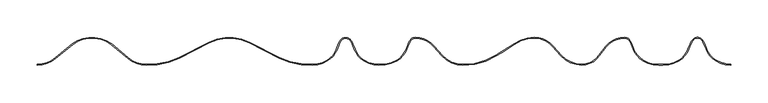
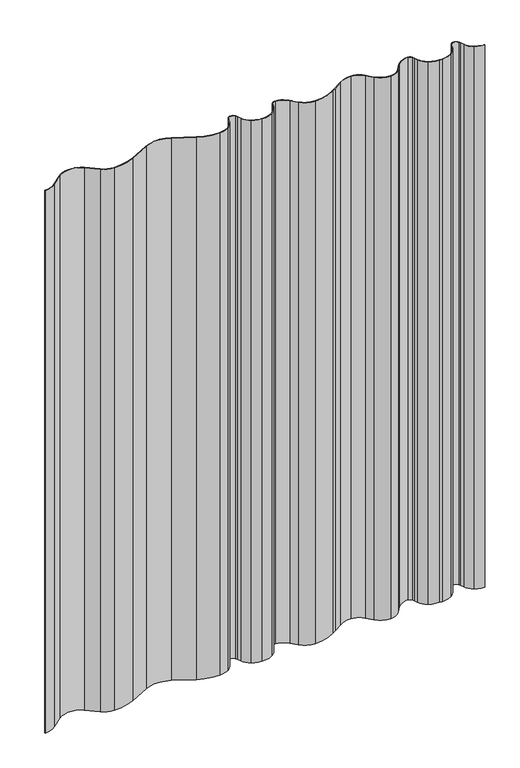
"""IFC4 building model written with IfcOpenShell, lengths in millimetres: plate geometry, Ritmica Vertical 928 : Ritmica Vertical 928."""

from ifc_helpers import new_model, si_unit, frame, origin, place, context, project, spatial, polyline, circle_curve, source, transform, mapped, element, save
from ifc_brep_helpers import plane_surface, cylinder_surface, revolved_surface, advanced_brep


def plate_bd2025f0(model_context):
    return source(origin(), model_context, "Body", "AdvancedBrep", [
        advanced_brep(
        [(444.4302446, 6.5092452, 1209.2760479), (431.9836286, 21.2620905, 1209.2760479), (429.1046615, 28.4575337, 1209.2760479), (427.4452979, 31.9226201, 1209.2760479), (411.4637013, 31.9284371, 1209.2760479), (409.8018157, 28.4645596, 1209.2760479), (406.9176114, 21.271214, 1209.2760479), (394.4602592, 6.5274333, 1209.2760479), (373.3665492, 0.7421636, 1209.2760479), (368.0278773, 0.7421636, 1209.2760479), (346.9383844, 6.5447303, 1209.2760479), (334.4917684, 21.2975755, 1209.2760479), (331.6128013, 28.4930188, 1209.2760479), (329.9534377, 31.9581052, 1209.2760479), (321.9644706, 36.992141, 1209.2760479), (296.9888452, 24.9656023, 1209.2760479), (287.4386892, 12.9828793, 1209.2760479), (264.9602063, 1.004862, 1209.2760479), (237.4962028, 13.0090371, 1209.2760479), (226.3924296, 24.9992776, 1209.2760479), (201.4255657, 37.0439944, 1209.2760479), (174.6923281, 28.6299834, 1209.2760479), (157.3593244, 17.4991286, 1209.2760479), (149.9257866, 13.1042873, 1209.2760479), (105.747615, 0.9217598, 1209.2760479), (78.2836116, 12.9259348, 1209.2760479), (67.1798385, 24.9161752, 1209.2760479), (42.2097646, 36.9608925, 1209.2760479), (34.2203451, 31.9326734, 1209.2760479), (32.5584593, 28.4687956, 1209.2760479), (29.674242, 21.2754179, 1209.2760479), (17.2169044, 6.5316705, 1209.2760479), (-6.5461114, 0.8337401, 1209.2760479), (-26.0848579, 6.3430017, 1209.2760479), (-38.5314739, 21.0958469, 1209.2760479), (-41.410441, 28.2912902, 1209.2760479), (-43.0698047, 31.7563766, 1209.2760479), (-59.0514012, 31.7621935, 1209.2760479), (-60.7132869, 28.298316, 1209.2760479), (-63.5974912, 21.1049705, 1209.2760479), (-76.0548434, 6.3611897, 1209.2760479), (-95.5975949, 0.8661531, 1209.2760479), (-139.3425473, 10.0476548, 1209.2760479), (-179.8736188, 30.4443215, 1209.2760479), (-233.7774888, 30.4639414, 1209.2760479), (-274.3233975, 10.0967851, 1209.2760479), (-318.0750221, 0.9471304, 1209.2760479), (-341.83917, 9.5589915, 1209.2760479), (-364.2633956, 28.2547827, 1209.2760479), (-417.1208498, 28.2740218, 1209.2760479), (-439.8609935, 9.5945594, 1209.2760479), (-463.6317682, 1.0000001, 1209.2760479), (-463.6317682, 0.0, 1209.2760479), (-439.2211878, 8.8260227, 1209.2760479), (-416.5014094, 27.488531, 1209.2760479), (-364.8834077, 27.4697431, 1209.2760479), (-342.479535, 8.7909208, 1209.2760479), (-318.0931528, -0.0528589, 1209.2760479), (-273.882295, 9.1992862, 1209.2760479), (-233.3286151, 29.5703462, 1209.2760479), (-180.3231429, 29.5510533, 1209.2760479), (-139.7843031, 9.1504773, 1209.2760479), (-95.5801931, -0.1338492, 1209.2760479), (-75.5333761, 5.5079185, 1209.2760479), (-62.6692321, 20.7330361, 1209.2760479), (-59.7974032, 27.8955168, 1209.2760479), (-58.1497994, 31.3296266, 1209.2760479), (-43.9717211, 31.324466, 1209.2760479), (-42.3266177, 27.8891578, 1209.2760479), (-39.4600035, 20.7245884, 1209.2760479), (-26.6069462, 5.4901103, 1209.2760479), (-6.5788504, -0.1662344, 1209.2760479), (17.7328786, 5.6750431, 1209.2760479), (30.6024869, 20.9034484, 1209.2760479), (33.4743429, 28.0659964, 1209.2760479), (35.1219469, 31.5001063, 1209.2760479), (42.2097628, 35.9608925, 1209.2760479), (66.4203948, 24.2645007, 1209.2760479), (77.5499027, 12.2464708, 1209.2760479), (105.7362544, -0.0782346, 1209.2760479), (150.4460781, 12.2501965, 1209.2760479), (157.8841427, 16.6477141, 1209.2760479), (175.2477974, 27.7982523, 1209.2760479), (201.4270073, 36.0439937, 1209.2760479), (225.6330756, 24.3475061, 1209.2760479), (236.7624939, 12.3295731, 1209.2760479), (264.9598423, 0.0048621, 1209.2760479), (288.2459339, 12.3912758, 1209.2760479), (297.7708595, 24.3423418, 1209.2760479), (321.9641067, 35.9921411, 1209.2760479), (329.0515212, 31.5261946, 1209.2760479), (330.6966247, 28.0908864, 1209.2760479), (333.5638307, 20.9248377, 1209.2760479), (346.4204051, 5.6893005, 1209.2760479), (368.0275134, -0.2558932, 1209.2760479), (373.3663683, -0.2578364, 1209.2760479), (394.9762369, 5.6708079, 1209.2760479), (407.8458704, 20.8992797, 1209.2760479), (410.7176994, 28.0617603, 1209.2760479), (412.3653031, 31.4958701, 1209.2760479), (426.5433815, 31.4907096, 1209.2760479), (428.1884849, 28.0554013, 1209.2760479), (431.0550991, 20.8908319, 1209.2760479), (443.9081563, 5.6563538, 1209.2760479), (463.9686268, -1.63e-05, 1209.2760479), (463.9686268, 0.9999838, 1209.2760479), (444.4302446, 6.5092452, 0.0), (463.9686268, 0.9999838, 0.0), (463.9686268, -1.63e-05, 0.0), (443.9081563, 5.6563538, 0.0), (431.0550991, 20.8908319, 0.0), (428.1884849, 28.0554013, 0.0), (426.5433815, 31.4907096, 0.0), (412.3653031, 31.4958701, 0.0), (410.7176994, 28.0617603, 0.0), (407.8458704, 20.8992797, 0.0), (394.9762369, 5.6708079, 0.0), (373.3663683, -0.2578364, 0.0), (368.0278773, -0.2578364, 0.0), (346.4204051, 5.6893005, 0.0), (333.5638307, 20.9248377, 0.0), (330.6966247, 28.0908864, 0.0), (329.0515212, 31.5261946, 0.0), (321.9641067, 35.9921411, 0.0), (297.7708595, 24.3423418, 0.0), (288.2459339, 12.3912758, 0.0), (264.9598423, 0.0048621, 0.0), (236.7624939, 12.3295731, 0.0), (225.6330756, 24.3475061, 0.0), (201.4270073, 36.0439937, 0.0), (175.2477974, 27.7982523, 0.0), (157.8841427, 16.6477141, 0.0), (150.4460781, 12.2501965, 0.0), (105.7362544, -0.0782346, 0.0), (77.5499027, 12.2464708, 0.0), (66.4203948, 24.2645007, 0.0), (42.2097628, 35.9608925, 0.0), (35.1219469, 31.5001063, 0.0), (33.4743429, 28.0659964, 0.0), (30.6024869, 20.9034484, 0.0), (17.7328786, 5.6750431, 0.0), (-6.5788504, -0.1662344, 0.0), (-26.6069462, 5.4901103, 0.0), (-39.4600035, 20.7245884, 0.0), (-42.3266177, 27.8891578, 0.0), (-43.9717211, 31.324466, 0.0), (-58.1497994, 31.3296266, 0.0), (-59.7974032, 27.8955168, 0.0), (-62.6692321, 20.7330361, 0.0), (-75.5333761, 5.5079185, 0.0), (-95.5801931, -0.1338492, 0.0), (-139.7843031, 9.1504773, 0.0), (-180.3231429, 29.5510533, 0.0), (-233.3286151, 29.5703462, 0.0), (-273.882295, 9.1992862, 0.0), (-318.0931528, -0.0528589, 0.0), (-342.479535, 8.7909208, 0.0), (-364.8834077, 27.4697431, 0.0), (-416.5014094, 27.488531, 0.0), (-439.2211878, 8.8260227, 0.0), (-463.6317682, 0.0, 0.0), (-463.6317682, 1.0000001, 0.0), (-439.8609935, 9.5945594, 0.0), (-417.1208498, 28.2740218, 0.0), (-364.2633956, 28.2547827, 0.0), (-341.83917, 9.5589915, 0.0), (-318.0750221, 0.9471304, 0.0), (-274.3233975, 10.0967851, 0.0), (-233.7774888, 30.4639414, 0.0), (-179.8736188, 30.4443215, 0.0), (-139.3425473, 10.0476548, 0.0), (-95.5975949, 0.8661531, 0.0), (-76.0548434, 6.3611897, 0.0), (-63.5974912, 21.1049705, 0.0), (-60.7132869, 28.298316, 0.0), (-59.0514012, 31.7621935, 0.0), (-43.0698047, 31.7563766, 0.0), (-41.410441, 28.2912902, 0.0), (-38.5314739, 21.0958469, 0.0), (-26.0848579, 6.3430017, 0.0), (-6.5461114, 0.8337401, 0.0), (17.2169044, 6.5316705, 0.0), (29.674242, 21.2754179, 0.0), (32.5584593, 28.4687956, 0.0), (34.2203451, 31.9326734, 0.0), (42.2097646, 36.9608925, 0.0), (67.1798385, 24.9161752, 0.0), (78.2836116, 12.9259348, 0.0), (105.747615, 0.9217598, 0.0), (149.9257866, 13.1042873, 0.0), (157.3593244, 17.4991286, 0.0), (174.6923281, 28.6299834, 0.0), (201.4255657, 37.0439944, 0.0), (226.3924296, 24.9992776, 0.0), (237.4962028, 13.0090371, 0.0), (264.9602063, 1.004862, 0.0), (287.4386892, 12.9828793, 0.0), (296.9888452, 24.9656023, 0.0), (321.9644706, 36.992141, 0.0), (329.9534377, 31.9581052, 0.0), (331.6128013, 28.4930188, 0.0), (334.4917684, 21.2975755, 0.0), (346.9383844, 6.5447303, 0.0), (368.0278773, 0.7441067, 0.0), (373.3665492, 0.7421636, 0.0), (394.4602592, 6.5274333, 0.0), (406.9176114, 21.271214, 0.0), (409.8018157, 28.4645596, 0.0), (411.4637013, 31.9284371, 0.0), (427.4452979, 31.9226201, 0.0), (429.1046615, 28.4575337, 0.0), (431.9836286, 21.2620905, 0.0)],
        [
            (0, 1, circle_curve(frame((460.4148551, 32.6219475, 1209.2760479), z_axis=(0.0, 0.0, -1.0), x_axis=(1.0, 0.0, 0.0)), 30.6166783)),
            (1, 2),
            (2, 3),
            (3, 4, circle_curve(frame((419.4531055, 28.095312, 1209.2760479), z_axis=(0.0, 0.0, 1.0), x_axis=(1.0, 0.0, 0.0)), 8.8613445)),
            (4, 5),
            (5, 6),
            (6, 7, circle_curve(frame((378.4946619, 32.6517648, 1209.2760479), z_axis=(0.0, 0.0, -1.0), x_axis=(1.0, 0.0, 0.0)), 30.6166783)),
            (7, 8, circle_curve(frame((373.381579, 42.0349557, 1209.2760479), z_axis=(0.0, 0.0, -1.0), x_axis=(1.0, 0.0, 0.0)), 41.2927949)),
            (8, 9),
            (9, 10, circle_curve(frame((368.0429071, 42.0368989, 1209.2760479), z_axis=(0.0, 0.0, -1.0), x_axis=(1.0, 0.0, 0.0)), 41.2927949)),
            (10, 11, circle_curve(frame((363.1637949, 32.8605896, 1209.2760479), z_axis=(0.0, 0.0, -1.0), x_axis=(1.0, 0.0, 0.0)), 30.9158276)),
            (11, 12),
            (12, 13),
            (13, 14, circle_curve(frame((321.9612453, 28.130797, 1209.2760479), z_axis=(0.0, 0.0, 1.0), x_axis=(1.0, 0.0, 0.0)), 8.8613445)),
            (14, 15, circle_curve(frame((321.9528514, 5.069444, 1209.2760479), z_axis=(0.0, 0.0, 1.0), x_axis=(1.0, 0.0, 0.0)), 31.9226992)),
            (15, 16),
            (16, 17, circle_curve(frame((264.9700565, 28.0674484, 1209.2760479), z_axis=(0.0, 0.0, -1.0), x_axis=(1.0, 0.0, 0.0)), 27.0625882)),
            (17, 18, circle_curve(frame((264.9738374, 38.455184, 1209.2760479), z_axis=(0.0, 0.0, -1.0), x_axis=(1.0, 0.0, 0.0)), 37.4503244)),
            (18, 19),
            (19, 20, circle_curve(frame((201.4139464, 5.1212973, 1209.2760479), z_axis=(0.0, 0.0, 1.0), x_axis=(1.0, 0.0, 0.0)), 31.9226992)),
            (20, 21, circle_curve(frame((201.5791622, -10.119828, 1209.2760479), z_axis=(0.0, 0.0, 1.0), x_axis=(1.0, 0.0, 0.0)), 47.1640725)),
            (21, 22),
            (22, 23),
            (23, 24, circle_curve(frame((107.5247522, 80.6713634, 1209.2760479), z_axis=(0.0, 0.0, -1.0), x_axis=(1.0, 0.0, 0.0)), 79.769402)),
            (24, 25, circle_curve(frame((105.7612462, 38.3720817, 1209.2760479), z_axis=(0.0, 0.0, -1.0), x_axis=(1.0, 0.0, 0.0)), 37.4503244)),
            (25, 26),
            (26, 27, circle_curve(frame((42.2097086, 5.0555108, 1209.2760479), z_axis=(0.0, 0.0, 1.0), x_axis=(1.0, 0.0, 0.0)), 31.9053816)),
            (27, 28, circle_curve(frame((42.209749, 28.099548, 1209.2760479), z_axis=(0.0, 0.0, 1.0), x_axis=(1.0, 0.0, 0.0)), 8.8613444)),
            (28, 29),
            (29, 30),
            (30, 31, circle_curve(frame((1.2513055, 32.656001, 1209.2760479), z_axis=(0.0, 0.0, -1.0), x_axis=(1.0, 0.0, 0.0)), 30.6166783)),
            (31, 32, circle_curve(frame((-3.8617775, 42.0391919, 1209.2760479), z_axis=(0.0, 0.0, -1.0), x_axis=(1.0, 0.0, 0.0)), 41.2927948)),
            (32, 33, circle_curve(frame((-6.5324806, 38.2840621, 1209.2760479), z_axis=(0.0, 0.0, -1.0), x_axis=(1.0, 0.0, 0.0)), 37.4503244)),
            (33, 34, circle_curve(frame((-10.1002475, 32.4557039, 1209.2760479), z_axis=(0.0, 0.0, -1.0), x_axis=(1.0, 0.0, 0.0)), 30.6166783)),
            (34, 35),
            (35, 36),
            (36, 37, circle_curve(frame((-51.0619971, 27.9290684, 1209.2760479), z_axis=(0.0, 0.0, 1.0), x_axis=(1.0, 0.0, 0.0)), 8.8613445)),
            (37, 38),
            (38, 39),
            (39, 40, circle_curve(frame((-92.0204406, 32.4855212, 1209.2760479), z_axis=(0.0, 0.0, -1.0), x_axis=(1.0, 0.0, 0.0)), 30.6166783)),
            (40, 41, circle_curve(frame((-95.5839638, 38.316475, 1209.2760479), z_axis=(0.0, 0.0, -1.0), x_axis=(1.0, 0.0, 0.0)), 37.4503244)),
            (41, 42, circle_curve(frame((-98.8645428, 94.1023106, 1209.2760479), z_axis=(0.0, 0.0, -1.0), x_axis=(1.0, 0.0, 0.0)), 93.293376)),
            (42, 43),
            (43, 44, circle_curve(frame((-206.8450653, -23.1517705, 1209.2760479), z_axis=(0.0, 0.0, 1.0), x_axis=(1.0, 0.0, 0.0)), 60.0)),
            (44, 45),
            (45, 46, circle_curve(frame((-314.7402029, 94.180885, 1209.2760479), z_axis=(0.0, 0.0, -1.0), x_axis=(1.0, 0.0, 0.0)), 93.293376)),
            (46, 47, circle_curve(frame((-318.061507, 38.0785482, 1209.2760479), z_axis=(0.0, 0.0, -1.0), x_axis=(1.0, 0.0, 0.0)), 37.1314203)),
            (47, 48),
            (48, 49, circle_curve(frame((-390.7049909, -7.0897704, 1209.2760479), z_axis=(0.0, 0.0, 1.0), x_axis=(1.0, 0.0, 0.0)), 44.1406321)),
            (49, 50),
            (50, 51, circle_curve(frame((-463.6178891, 38.1314178, 1209.2760479), z_axis=(0.0, 0.0, -1.0), x_axis=(1.0, 0.0, 0.0)), 37.1314203)),
            (51, 52),
            (52, 53, circle_curve(frame((-463.6178891, 38.1314178, 1209.2760479), z_axis=(0.0, 0.0, 1.0), x_axis=(1.0, 0.0, 0.0)), 38.1314203)),
            (53, 54),
            (54, 55, circle_curve(frame((-390.7049909, -7.0897704, 1209.2760479), z_axis=(0.0, 0.0, -1.0), x_axis=(1.0, 0.0, 0.0)), 43.1406321)),
            (55, 56),
            (56, 57, circle_curve(frame((-318.061507, 38.0785482, 1209.2760479), z_axis=(0.0, 0.0, 1.0), x_axis=(1.0, 0.0, 0.0)), 38.1314203)),
            (57, 58, circle_curve(frame((-314.7402029, 94.180885, 1209.2760479), z_axis=(0.0, 0.0, 1.0), x_axis=(1.0, 0.0, 0.0)), 94.293376)),
            (58, 59),
            (59, 60, circle_curve(frame((-206.8450653, -23.1517705, 1209.2760479), z_axis=(0.0, 0.0, -1.0), x_axis=(1.0, 0.0, 0.0)), 59.0)),
            (60, 61),
            (61, 62, circle_curve(frame((-98.8645428, 94.1023106, 1209.2760479), z_axis=(0.0, 0.0, 1.0), x_axis=(1.0, 0.0, 0.0)), 94.293376)),
            (62, 63, circle_curve(frame((-95.5839638, 38.316475, 1209.2760479), z_axis=(0.0, 0.0, 1.0), x_axis=(1.0, 0.0, 0.0)), 38.4503244)),
            (63, 64, circle_curve(frame((-92.0204406, 32.4855212, 1209.2760479), z_axis=(0.0, 0.0, 1.0), x_axis=(1.0, 0.0, 0.0)), 31.6166783)),
            (64, 65),
            (65, 66),
            (66, 67, circle_curve(frame((-51.0619971, 27.9290684, 1209.2760479), z_axis=(0.0, 0.0, -1.0), x_axis=(1.0, 0.0, 0.0)), 7.8613445)),
            (67, 68),
            (68, 69),
            (69, 70, circle_curve(frame((-10.1002475, 32.4557039, 1209.2760479), z_axis=(0.0, 0.0, 1.0), x_axis=(1.0, 0.0, 0.0)), 31.6166783)),
            (70, 71, circle_curve(frame((-6.5324806, 38.2840621, 1209.2760479), z_axis=(0.0, 0.0, 1.0), x_axis=(1.0, 0.0, 0.0)), 38.4503244)),
            (71, 72, circle_curve(frame((-3.8617775, 42.0391919, 1209.2760479), z_axis=(0.0, 0.0, 1.0), x_axis=(1.0, 0.0, 0.0)), 42.2927948)),
            (72, 73, circle_curve(frame((1.2513055, 32.656001, 1209.2760479), z_axis=(0.0, 0.0, 1.0), x_axis=(1.0, 0.0, 0.0)), 31.6166782)),
            (73, 74),
            (74, 75),
            (75, 76, circle_curve(frame((42.209749, 28.099548, 1209.2760479), z_axis=(0.0, 0.0, -1.0), x_axis=(1.0, 0.0, 0.0)), 7.8613444)),
            (76, 77, circle_curve(frame((42.2097086, 5.0555108, 1209.2760479), z_axis=(0.0, 0.0, -1.0), x_axis=(1.0, 0.0, 0.0)), 30.9053816)),
            (77, 78),
            (78, 79, circle_curve(frame((105.7612462, 38.3720817, 1209.2760479), z_axis=(0.0, 0.0, 1.0), x_axis=(1.0, 0.0, 0.0)), 38.4503244)),
            (79, 80, circle_curve(frame((107.5247522, 80.6713634, 1209.2760479), z_axis=(0.0, 0.0, 1.0), x_axis=(1.0, 0.0, 0.0)), 80.769402)),
            (80, 81),
            (81, 82),
            (82, 83, circle_curve(frame((201.5791622, -10.119828, 1209.2760479), z_axis=(0.0, 0.0, -1.0), x_axis=(1.0, 0.0, 0.0)), 46.1640725)),
            (83, 84, circle_curve(frame((201.4139464, 5.1212973, 1209.2760479), z_axis=(0.0, 0.0, -1.0), x_axis=(1.0, 0.0, 0.0)), 30.9226992)),
            (84, 85),
            (85, 86, circle_curve(frame((264.9738374, 38.455184, 1209.2760479), z_axis=(0.0, 0.0, 1.0), x_axis=(1.0, 0.0, 0.0)), 38.4503244)),
            (86, 87, circle_curve(frame((264.9700565, 28.0674484, 1209.2760479), z_axis=(0.0, 0.0, 1.0), x_axis=(1.0, 0.0, 0.0)), 28.0625882)),
            (87, 88),
            (88, 89, circle_curve(frame((321.9528514, 5.069444, 1209.2760479), z_axis=(0.0, 0.0, -1.0), x_axis=(1.0, 0.0, 0.0)), 30.9226992)),
            (89, 90, circle_curve(frame((321.9612453, 28.130797, 1209.2760479), z_axis=(0.0, 0.0, -1.0), x_axis=(1.0, 0.0, 0.0)), 7.8613445)),
            (90, 91),
            (91, 92),
            (92, 93, circle_curve(frame((363.1637949, 32.8605896, 1209.2760479), z_axis=(0.0, 0.0, 1.0), x_axis=(1.0, 0.0, 0.0)), 31.9158276)),
            (93, 94, circle_curve(frame((368.0429071, 42.0368989, 1209.2760479), z_axis=(0.0, 0.0, 1.0), x_axis=(1.0, 0.0, 0.0)), 42.2927949)),
            (94, 95),
            (95, 96, circle_curve(frame((373.381579, 42.0349557, 1209.2760479), z_axis=(0.0, 0.0, 1.0), x_axis=(1.0, 0.0, 0.0)), 42.2927949)),
            (96, 97, circle_curve(frame((378.4946619, 32.6517648, 1209.2760479), z_axis=(0.0, 0.0, 1.0), x_axis=(1.0, 0.0, 0.0)), 31.6166783)),
            (97, 98),
            (98, 99),
            (99, 100, circle_curve(frame((419.4531055, 28.095312, 1209.2760479), z_axis=(0.0, 0.0, -1.0), x_axis=(1.0, 0.0, 0.0)), 7.8613445)),
            (100, 101),
            (101, 102),
            (102, 103, circle_curve(frame((460.4148551, 32.6219475, 1209.2760479), z_axis=(0.0, 0.0, 1.0), x_axis=(1.0, 0.0, 0.0)), 31.6166783)),
            (103, 104, circle_curve(frame((463.982622, 38.4503056, 1209.2760479), z_axis=(0.0, 0.0, 1.0), x_axis=(1.0, 0.0, 0.0)), 38.4503244)),
            (104, 105),
            (105, 0, circle_curve(frame((463.982622, 38.4503056, 1209.2760479), z_axis=(0.0, 0.0, -1.0), x_axis=(1.0, 0.0, 0.0)), 37.4503244)),
            (106, 107, circle_curve(frame((463.982622, 38.4503056, 0.0), z_axis=(0.0, 0.0, 1.0), x_axis=(1.0, 0.0, 0.0)), 37.4503244)),
            (107, 108),
            (108, 109, circle_curve(frame((463.982622, 38.4503056, 0.0), z_axis=(0.0, 0.0, -1.0), x_axis=(1.0, 0.0, 0.0)), 38.4503244)),
            (109, 110, circle_curve(frame((460.4148551, 32.6219475, 0.0), z_axis=(0.0, 0.0, -1.0), x_axis=(1.0, 0.0, 0.0)), 31.6166783)),
            (110, 111),
            (111, 112),
            (112, 113, circle_curve(frame((419.4531055, 28.095312, 0.0), z_axis=(0.0, 0.0, 1.0), x_axis=(1.0, 0.0, 0.0)), 7.8613445)),
            (113, 114),
            (114, 115),
            (115, 116, circle_curve(frame((378.4946619, 32.6517648, 0.0), z_axis=(0.0, 0.0, -1.0), x_axis=(1.0, 0.0, 0.0)), 31.6166783)),
            (116, 117, circle_curve(frame((373.381579, 42.0349557, 0.0), z_axis=(0.0, 0.0, -1.0), x_axis=(1.0, 0.0, 0.0)), 42.2927949)),
            (117, 118),
            (118, 119, circle_curve(frame((368.0429071, 42.0368989, 0.0), z_axis=(0.0, 0.0, -1.0), x_axis=(1.0, 0.0, 0.0)), 42.2927949)),
            (119, 120, circle_curve(frame((363.1637949, 32.8605896, 0.0), z_axis=(0.0, 0.0, -1.0), x_axis=(1.0, 0.0, 0.0)), 31.9158276)),
            (120, 121),
            (121, 122),
            (122, 123, circle_curve(frame((321.9612453, 28.130797, 0.0), z_axis=(0.0, 0.0, 1.0), x_axis=(1.0, 0.0, 0.0)), 7.8613445)),
            (123, 124, circle_curve(frame((321.9528514, 5.069444, 0.0), z_axis=(0.0, 0.0, 1.0), x_axis=(1.0, 0.0, 0.0)), 30.9226992)),
            (124, 125),
            (125, 126, circle_curve(frame((264.9700565, 28.0674484, 0.0), z_axis=(0.0, 0.0, -1.0), x_axis=(1.0, 0.0, 0.0)), 28.0625882)),
            (126, 127, circle_curve(frame((264.9738374, 38.455184, 0.0), z_axis=(0.0, 0.0, -1.0), x_axis=(1.0, 0.0, 0.0)), 38.4503244)),
            (127, 128),
            (128, 129, circle_curve(frame((201.4139464, 5.1212973, 0.0), z_axis=(0.0, 0.0, 1.0), x_axis=(1.0, 0.0, 0.0)), 30.9226992)),
            (129, 130, circle_curve(frame((201.5791622, -10.119828, 0.0), z_axis=(0.0, 0.0, 1.0), x_axis=(1.0, 0.0, 0.0)), 46.1640725)),
            (130, 131),
            (131, 132),
            (132, 133, circle_curve(frame((107.5247522, 80.6713634, 0.0), z_axis=(0.0, 0.0, -1.0), x_axis=(1.0, 0.0, 0.0)), 80.769402)),
            (133, 134, circle_curve(frame((105.7612462, 38.3720817, 0.0), z_axis=(0.0, 0.0, -1.0), x_axis=(1.0, 0.0, 0.0)), 38.4503244)),
            (134, 135),
            (135, 136, circle_curve(frame((42.2097086, 5.0555108, 0.0), z_axis=(0.0, 0.0, 1.0), x_axis=(1.0, 0.0, 0.0)), 30.9053816)),
            (136, 137, circle_curve(frame((42.209749, 28.099548, 0.0), z_axis=(0.0, 0.0, 1.0), x_axis=(1.0, 0.0, 0.0)), 7.8613444)),
            (137, 138),
            (138, 139),
            (139, 140, circle_curve(frame((1.2513055, 32.656001, 0.0), z_axis=(0.0, 0.0, -1.0), x_axis=(1.0, 0.0, 0.0)), 31.6166782)),
            (140, 141, circle_curve(frame((-3.8617775, 42.0391919, 0.0), z_axis=(0.0, 0.0, -1.0), x_axis=(1.0, 0.0, 0.0)), 42.2927948)),
            (141, 142, circle_curve(frame((-6.5324806, 38.2840621, 0.0), z_axis=(0.0, 0.0, -1.0), x_axis=(1.0, 0.0, 0.0)), 38.4503244)),
            (142, 143, circle_curve(frame((-10.1002475, 32.4557039, 0.0), z_axis=(0.0, 0.0, -1.0), x_axis=(1.0, 0.0, 0.0)), 31.6166783)),
            (143, 144),
            (144, 145),
            (145, 146, circle_curve(frame((-51.0619971, 27.9290684, 0.0), z_axis=(0.0, 0.0, 1.0), x_axis=(1.0, 0.0, 0.0)), 7.8613445)),
            (146, 147),
            (147, 148),
            (148, 149, circle_curve(frame((-92.0204406, 32.4855212, 0.0), z_axis=(0.0, 0.0, -1.0), x_axis=(1.0, 0.0, 0.0)), 31.6166783)),
            (149, 150, circle_curve(frame((-95.5839638, 38.316475, 0.0), z_axis=(0.0, 0.0, -1.0), x_axis=(1.0, 0.0, 0.0)), 38.4503244)),
            (150, 151, circle_curve(frame((-98.8645428, 94.1023106, 0.0), z_axis=(0.0, 0.0, -1.0), x_axis=(1.0, 0.0, 0.0)), 94.293376)),
            (151, 152),
            (152, 153, circle_curve(frame((-206.8450653, -23.1517705, 0.0), z_axis=(0.0, 0.0, 1.0), x_axis=(1.0, 0.0, 0.0)), 59.0)),
            (153, 154),
            (154, 155, circle_curve(frame((-314.7402029, 94.180885, 0.0), z_axis=(0.0, 0.0, -1.0), x_axis=(1.0, 0.0, 0.0)), 94.293376)),
            (155, 156, circle_curve(frame((-318.061507, 38.0785482, 0.0), z_axis=(0.0, 0.0, -1.0), x_axis=(1.0, 0.0, 0.0)), 38.1314203)),
            (156, 157),
            (157, 158, circle_curve(frame((-390.7049909, -7.0897704, 0.0), z_axis=(0.0, 0.0, 1.0), x_axis=(1.0, 0.0, 0.0)), 43.1406321)),
            (158, 159),
            (159, 160, circle_curve(frame((-463.6178891, 38.1314178, 0.0), z_axis=(0.0, 0.0, -1.0), x_axis=(1.0, 0.0, 0.0)), 38.1314203)),
            (160, 161),
            (161, 162, circle_curve(frame((-463.6178891, 38.1314178, 0.0), z_axis=(0.0, 0.0, 1.0), x_axis=(1.0, 0.0, 0.0)), 37.1314203)),
            (162, 163),
            (163, 164, circle_curve(frame((-390.7049909, -7.0897704, 0.0), z_axis=(0.0, 0.0, -1.0), x_axis=(1.0, 0.0, 0.0)), 44.1406321)),
            (164, 165),
            (165, 166, circle_curve(frame((-318.061507, 38.0785482, 0.0), z_axis=(0.0, 0.0, 1.0), x_axis=(1.0, 0.0, 0.0)), 37.1314203)),
            (166, 167, circle_curve(frame((-314.7402029, 94.180885, 0.0), z_axis=(0.0, 0.0, 1.0), x_axis=(1.0, 0.0, 0.0)), 93.293376)),
            (167, 168),
            (168, 169, circle_curve(frame((-206.8450653, -23.1517705, 0.0), z_axis=(0.0, 0.0, -1.0), x_axis=(1.0, 0.0, 0.0)), 60.0)),
            (169, 170),
            (170, 171, circle_curve(frame((-98.8645428, 94.1023106, 0.0), z_axis=(0.0, 0.0, 1.0), x_axis=(1.0, 0.0, 0.0)), 93.293376)),
            (171, 172, circle_curve(frame((-95.5839638, 38.316475, 0.0), z_axis=(0.0, 0.0, 1.0), x_axis=(1.0, 0.0, 0.0)), 37.4503244)),
            (172, 173, circle_curve(frame((-92.0204406, 32.4855212, 0.0), z_axis=(0.0, 0.0, 1.0), x_axis=(1.0, 0.0, 0.0)), 30.6166783)),
            (173, 174),
            (174, 175),
            (175, 176, circle_curve(frame((-51.0619971, 27.9290684, 0.0), z_axis=(0.0, 0.0, -1.0), x_axis=(1.0, 0.0, 0.0)), 8.8613445)),
            (176, 177),
            (177, 178),
            (178, 179, circle_curve(frame((-10.1002475, 32.4557039, 0.0), z_axis=(0.0, 0.0, 1.0), x_axis=(1.0, 0.0, 0.0)), 30.6166783)),
            (179, 180, circle_curve(frame((-6.5324806, 38.2840621, 0.0), z_axis=(0.0, 0.0, 1.0), x_axis=(1.0, 0.0, 0.0)), 37.4503244)),
            (180, 181, circle_curve(frame((-3.8617775, 42.0391919, 0.0), z_axis=(0.0, 0.0, 1.0), x_axis=(1.0, 0.0, 0.0)), 41.2927948)),
            (181, 182, circle_curve(frame((1.2513055, 32.656001, 0.0), z_axis=(0.0, 0.0, 1.0), x_axis=(1.0, 0.0, 0.0)), 30.6166783)),
            (182, 183),
            (183, 184),
            (184, 185, circle_curve(frame((42.209749, 28.099548, 0.0), z_axis=(0.0, 0.0, -1.0), x_axis=(1.0, 0.0, 0.0)), 8.8613444)),
            (185, 186, circle_curve(frame((42.2097086, 5.0555108, 0.0), z_axis=(0.0, 0.0, -1.0), x_axis=(1.0, 0.0, 0.0)), 31.9053816)),
            (186, 187),
            (187, 188, circle_curve(frame((105.7612462, 38.3720817, 0.0), z_axis=(0.0, 0.0, 1.0), x_axis=(1.0, 0.0, 0.0)), 37.4503244)),
            (188, 189, circle_curve(frame((107.5247522, 80.6713634, 0.0), z_axis=(0.0, 0.0, 1.0), x_axis=(1.0, 0.0, 0.0)), 79.769402)),
            (189, 190),
            (190, 191),
            (191, 192, circle_curve(frame((201.5791622, -10.119828, 0.0), z_axis=(0.0, 0.0, -1.0), x_axis=(1.0, 0.0, 0.0)), 47.1640725)),
            (192, 193, circle_curve(frame((201.4139464, 5.1212973, 0.0), z_axis=(0.0, 0.0, -1.0), x_axis=(1.0, 0.0, 0.0)), 31.9226992)),
            (193, 194),
            (194, 195, circle_curve(frame((264.9738374, 38.455184, 0.0), z_axis=(0.0, 0.0, 1.0), x_axis=(1.0, 0.0, 0.0)), 37.4503244)),
            (195, 196, circle_curve(frame((264.9700565, 28.0674484, 0.0), z_axis=(0.0, 0.0, 1.0), x_axis=(1.0, 0.0, 0.0)), 27.0625882)),
            (196, 197),
            (197, 198, circle_curve(frame((321.9528514, 5.069444, 0.0), z_axis=(0.0, 0.0, -1.0), x_axis=(1.0, 0.0, 0.0)), 31.9226992)),
            (198, 199, circle_curve(frame((321.9612453, 28.130797, 0.0), z_axis=(0.0, 0.0, -1.0), x_axis=(1.0, 0.0, 0.0)), 8.8613445)),
            (199, 200),
            (200, 201),
            (201, 202, circle_curve(frame((363.1637949, 32.8605896, 0.0), z_axis=(0.0, 0.0, 1.0), x_axis=(1.0, 0.0, 0.0)), 30.9158276)),
            (202, 203, circle_curve(frame((368.0429071, 42.0368989, 0.0), z_axis=(0.0, 0.0, 1.0), x_axis=(1.0, 0.0, 0.0)), 41.2927949)),
            (203, 204),
            (204, 205, circle_curve(frame((373.381579, 42.0349557, 0.0), z_axis=(0.0, 0.0, 1.0), x_axis=(1.0, 0.0, 0.0)), 41.2927949)),
            (205, 206, circle_curve(frame((378.4946619, 32.6517648, 0.0), z_axis=(0.0, 0.0, 1.0), x_axis=(1.0, 0.0, 0.0)), 30.6166783)),
            (206, 207),
            (207, 208),
            (208, 209, circle_curve(frame((419.4531055, 28.095312, 0.0), z_axis=(0.0, 0.0, -1.0), x_axis=(1.0, 0.0, 0.0)), 8.8613445)),
            (209, 210),
            (210, 211),
            (211, 106, circle_curve(frame((460.4148551, 32.6219475, 0.0), z_axis=(0.0, 0.0, 1.0), x_axis=(1.0, 0.0, 0.0)), 30.6166783)),
            (0, 106),
            (211, 1),
            (210, 2),
            (209, 3),
            (208, 4),
            (207, 5),
            (206, 6),
            (205, 7),
            (204, 8),
            (203, 9),
            (202, 10),
            (201, 11),
            (200, 12),
            (199, 13),
            (198, 14),
            (197, 15),
            (196, 16),
            (195, 17),
            (194, 18),
            (193, 19),
            (192, 20),
            (191, 21),
            (190, 22),
            (189, 23),
            (188, 24),
            (187, 25),
            (186, 26),
            (185, 27),
            (184, 28),
            (183, 29),
            (182, 30),
            (181, 31),
            (180, 32),
            (179, 33),
            (178, 34),
            (177, 35),
            (176, 36),
            (175, 37),
            (174, 38),
            (173, 39),
            (172, 40),
            (171, 41),
            (170, 42),
            (169, 43),
            (168, 44),
            (167, 45),
            (166, 46),
            (165, 47),
            (164, 48),
            (163, 49),
            (162, 50),
            (161, 51),
            (160, 52),
            (159, 53),
            (158, 54),
            (157, 55),
            (156, 56),
            (155, 57),
            (154, 58),
            (153, 59),
            (152, 60),
            (151, 61),
            (150, 62),
            (149, 63),
            (148, 64),
            (147, 65),
            (146, 66),
            (145, 67),
            (144, 68),
            (143, 69),
            (142, 70),
            (141, 71),
            (140, 72),
            (139, 73),
            (138, 74),
            (137, 75),
            (136, 76),
            (135, 77),
            (134, 78),
            (133, 79),
            (132, 80),
            (131, 81),
            (130, 82),
            (129, 83),
            (128, 84),
            (127, 85),
            (126, 86),
            (125, 87),
            (124, 88),
            (123, 89),
            (122, 90),
            (121, 91),
            (120, 92),
            (119, 93),
            (118, 94),
            (117, 95),
            (116, 96),
            (115, 97),
            (114, 98),
            (113, 99),
            (112, 100),
            (111, 101),
            (110, 102),
            (109, 103),
            (108, 104),
            (107, 105),
        ],
        [
            plane_surface(frame((491.0315334, 32.6219475, 1209.2760479), z_axis=(0.0, 0.0, 1.0), x_axis=(0.0, -1.0, 0.0))),
            plane_surface(frame((491.0315334, 32.6219475, 0.0), z_axis=(0.0, 0.0, -1.0), x_axis=(0.0, 1.0, 0.0))),
            revolved_surface(polyline([(491.0315334, 32.6219475, 0.0), (491.0315334, 32.6219475, 1209.2760479)]), (460.4148551, 32.6219475, 0.0), (0.0, 0.0, -1.0)),
            plane_surface(frame((431.9836286, 21.2620905, 1209.2760479), z_axis=(0.9284415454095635, 0.3714785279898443, 0.0), x_axis=(0.0, 0.0, -1.0))),
            plane_surface(frame((429.1046615, 28.4575337, 1209.2760479), z_axis=(0.901916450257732, 0.4319105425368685, 0.0), x_axis=(0.0, 0.0, -1.0))),
            cylinder_surface(frame((419.4531055, 28.095312, 0.0), z_axis=(0.0, 0.0, 1.0), x_axis=(1.0, 0.0, 0.0)), 8.8613445),
            plane_surface(frame((411.4637013, 31.9284371, 1209.2760479), z_axis=(-0.9016017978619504, 0.4325669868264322, 0.0), x_axis=(0.0, 0.0, -1.0))),
            plane_surface(frame((409.8018157, 28.4645596, 1209.2760479), z_axis=(-0.9281708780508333, 0.37215429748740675, 0.0), x_axis=(0.0, 0.0, -1.0))),
            revolved_surface(polyline([(409.1113402, 32.6517648, 0.0), (409.1113402, 32.6517648, 1209.2760479)]), (378.4946619, 32.6517648, 0.0), (0.0, 0.0, -1.0)),
            revolved_surface(polyline([(414.6743739, 42.0349557, 0.0), (414.6743739, 42.0349557, 1209.2760479)]), (373.381579, 42.0349557, 0.0), (0.0, 0.0, -1.0)),
            plane_surface(frame((373.3665492, 0.7421636, 1209.2760479), z_axis=(0.0, 1.0, 0.0), x_axis=(0.0, 0.0, -1.0))),
            revolved_surface(polyline([(409.33570199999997, 42.0368989, 0.0), (409.33570199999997, 42.0368989, 1209.2760479)]), (368.0429071, 42.0368989, 0.0), (0.0, 0.0, -1.0)),
            revolved_surface(polyline([(394.0796225, 32.8605896, 0.0), (394.0796225, 32.8605896, 1209.2760479)]), (363.1637949, 32.8605896, 0.0), (0.0, 0.0, -1.0)),
            plane_surface(frame((334.4917684, 21.2975755, 1209.2760479), z_axis=(0.9284415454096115, 0.37147852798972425, 0.0), x_axis=(0.0, 0.0, -1.0))),
            plane_surface(frame((331.6128013, 28.4930188, 1209.2760479), z_axis=(0.901916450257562, 0.4319105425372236, 0.0), x_axis=(0.0, 0.0, -1.0))),
            cylinder_surface(frame((321.9612453, 28.130797, 0.0), z_axis=(0.0, 0.0, 1.0), x_axis=(1.0, 0.0, 0.0)), 8.8613445),
            cylinder_surface(frame((321.9528514, 5.069444, 0.0), z_axis=(0.0, 0.0, 1.0), x_axis=(1.0, 0.0, 0.0)), 31.9226992),
            plane_surface(frame((296.9888452, 24.9656023, 1209.2760479), z_axis=(-0.7820142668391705, 0.6232605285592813, 0.0), x_axis=(0.0, 0.0, -1.0))),
            revolved_surface(polyline([(292.0326447, 28.0674484, 0.0), (292.0326447, 28.0674484, 1209.2760479)]), (264.9700565, 28.0674484, 0.0), (0.0, 0.0, -1.0)),
            revolved_surface(polyline([(302.4241618, 38.455184, 0.0), (302.4241618, 38.455184, 1209.2760479)]), (264.9738374, 38.455184, 0.0), (0.0, 0.0, -1.0)),
            plane_surface(frame((237.4962028, 13.0090371, 1209.2760479), z_axis=(0.7337088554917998, 0.6794639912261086, 0.0), x_axis=(0.0, 0.0, -1.0))),
            cylinder_surface(frame((201.4139464, 5.1212973, 0.0), z_axis=(0.0, 0.0, 1.0), x_axis=(1.0, 0.0, 0.0)), 31.9226992),
            cylinder_surface(frame((201.5791622, -10.119828, 0.0), z_axis=(0.0, 0.0, 1.0), x_axis=(1.0, 0.0, 0.0)), 47.1640725),
            plane_surface(frame((174.6923281, 28.6299834, 1209.2760479), z_axis=(-0.5403525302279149, 0.8414387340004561, 0.0), x_axis=(0.0, 0.0, -1.0))),
            plane_surface(frame((157.3593244, 17.4991286, 1209.2760479), z_axis=(-0.508926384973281, 0.8608100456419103, 0.0), x_axis=(0.0, 0.0, -1.0))),
            revolved_surface(polyline([(187.29415419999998, 80.6713634, 0.0), (187.29415419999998, 80.6713634, 1209.2760479)]), (107.5247522, 80.6713634, 0.0), (0.0, 0.0, -1.0)),
            revolved_surface(polyline([(143.21157060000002, 38.3720817, 0.0), (143.21157060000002, 38.3720817, 1209.2760479)]), (105.7612462, 38.3720817, 0.0), (0.0, 0.0, -1.0)),
            plane_surface(frame((78.2836116, 12.9259348, 1209.2760479), z_axis=(0.7337088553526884, 0.679463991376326, 0.0), x_axis=(0.0, 0.0, -1.0))),
            cylinder_surface(frame((42.2097086, 5.0555108, 0.0), z_axis=(0.0, 0.0, 1.0), x_axis=(1.0, 0.0, 0.0)), 31.9053816),
            cylinder_surface(frame((42.209749, 28.099548, 0.0), z_axis=(0.0, 0.0, 1.0), x_axis=(1.0, 0.0, 0.0)), 8.8613444),
            plane_surface(frame((34.2203451, 31.9326734, 1209.2760479), z_axis=(-0.901601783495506, 0.4325670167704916, 0.0), x_axis=(0.0, 0.0, -1.0))),
            plane_surface(frame((32.5584593, 28.4687956, 1209.2760479), z_axis=(-0.9281708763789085, 0.3721543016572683, 0.0), x_axis=(0.0, 0.0, -1.0))),
            revolved_surface(polyline([(31.8679838, 32.656001, 0.0), (31.8679838, 32.656001, 1209.2760479)]), (1.2513055, 32.656001, 0.0), (0.0, 0.0, -1.0)),
            revolved_surface(polyline([(37.4310173, 42.0391919, 0.0), (37.4310173, 42.0391919, 1209.2760479)]), (-3.8617775, 42.0391919, 0.0), (0.0, 0.0, -1.0)),
            revolved_surface(polyline([(30.9178438, 38.2840621, 0.0), (30.9178438, 38.2840621, 1209.2760479)]), (-6.5324806, 38.2840621, 0.0), (0.0, 0.0, -1.0)),
            revolved_surface(polyline([(20.516430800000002, 32.4557039, 0.0), (20.516430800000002, 32.4557039, 1209.2760479)]), (-10.1002475, 32.4557039, 0.0), (0.0, 0.0, -1.0)),
            plane_surface(frame((-38.5314739, 21.0958469, 1209.2760479), z_axis=(0.9284415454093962, 0.37147852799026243, 0.0), x_axis=(0.0, 0.0, -1.0))),
            plane_surface(frame((-41.410441, 28.2912902, 1209.2760479), z_axis=(0.9019164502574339, 0.4319105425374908, 0.0), x_axis=(0.0, 0.0, -1.0))),
            cylinder_surface(frame((-51.0619971, 27.9290684, 0.0), z_axis=(0.0, 0.0, 1.0), x_axis=(1.0, 0.0, 0.0)), 8.8613445),
            plane_surface(frame((-59.0514012, 31.7621935, 1209.2760479), z_axis=(-0.90160179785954, 0.4325669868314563, 0.0), x_axis=(0.0, 0.0, -1.0))),
            plane_surface(frame((-60.7132869, 28.298316, 1209.2760479), z_axis=(-0.9281708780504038, 0.37215429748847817, 0.0), x_axis=(0.0, 0.0, -1.0))),
            revolved_surface(polyline([(-61.4037623, 32.4855212, 0.0), (-61.4037623, 32.4855212, 1209.2760479)]), (-92.0204406, 32.4855212, 0.0), (0.0, 0.0, -1.0)),
            revolved_surface(polyline([(-58.13363940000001, 38.316475, 0.0), (-58.13363940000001, 38.316475, 1209.2760479)]), (-95.5839638, 38.316475, 0.0), (0.0, 0.0, -1.0)),
            revolved_surface(polyline([(-5.5711668, 94.1023106, 0.0), (-5.5711668, 94.1023106, 1209.2760479)]), (-98.8645428, 94.1023106, 0.0), (0.0, 0.0, -1.0)),
            plane_surface(frame((-139.3425473, 10.0476548, 1209.2760479), z_axis=(0.4495241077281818, 0.8932681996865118, 0.0), x_axis=(0.0, 0.0, -1.0))),
            cylinder_surface(frame((-206.8450653, -23.1517705, 0.0), z_axis=(0.0, 0.0, 1.0), x_axis=(1.0, 0.0, 0.0)), 60.0),
            plane_surface(frame((-233.7774888, 30.4639414, 1209.2760479), z_axis=(-0.44887372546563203, 0.8935951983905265, 0.0), x_axis=(0.0, 0.0, -1.0))),
            revolved_surface(polyline([(-221.4468269, 94.180885, 0.0), (-221.4468269, 94.180885, 1209.2760479)]), (-314.7402029, 94.180885, 0.0), (0.0, 0.0, -1.0)),
            revolved_surface(polyline([(-280.9300867, 38.0785482, 0.0), (-280.9300867, 38.0785482, 1209.2760479)]), (-318.061507, 38.0785482, 0.0), (0.0, 0.0, -1.0)),
            plane_surface(frame((-341.83917, 9.5589915, 1209.2760479), z_axis=(0.6403650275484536, 0.7680707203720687, 0.0), x_axis=(0.0, 0.0, -1.0))),
            cylinder_surface(frame((-390.7049909, -7.0897704, 0.0), z_axis=(0.0, 0.0, 1.0), x_axis=(1.0, 0.0, 0.0)), 44.1406321),
            plane_surface(frame((-417.1208498, 28.2740218, 1209.2760479), z_axis=(-0.634740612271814, 0.7727252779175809, 0.0), x_axis=(0.0, 0.0, -1.0))),
            revolved_surface(polyline([(-426.4864688, 38.1314178, 0.0), (-426.4864688, 38.1314178, 1209.2760479)]), (-463.6178891, 38.1314178, 0.0), (0.0, 0.0, -1.0)),
            plane_surface(frame((-463.6317682, 1.0000001, 1209.2760479), z_axis=(-1.0, 0.0, 0.0), x_axis=(0.0, 0.0, -1.0))),
            cylinder_surface(frame((-463.6178891, 38.1314178, 0.0), z_axis=(0.0, 0.0, 1.0), x_axis=(1.0, 0.0, 0.0)), 38.1314203),
            plane_surface(frame((-439.2211878, 8.8260227, 1209.2760479), z_axis=(0.6347360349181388, -0.7727290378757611, 0.0), x_axis=(0.0, 0.0, -1.0))),
            revolved_surface(polyline([(-347.5643588, -7.0897704, 0.0), (-347.5643588, -7.0897704, 1209.2760479)]), (-390.7049909, -7.0897704, 0.0), (0.0, 0.0, -1.0)),
            plane_surface(frame((-364.8834077, 27.4697431, 1209.2760479), z_axis=(-0.6403650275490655, -0.7680707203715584, 0.0), x_axis=(0.0, 0.0, -1.0))),
            cylinder_surface(frame((-318.061507, 38.0785482, 0.0), z_axis=(0.0, 0.0, 1.0), x_axis=(1.0, 0.0, 0.0)), 38.1314203),
            cylinder_surface(frame((-314.7402029, 94.180885, 0.0), z_axis=(0.0, 0.0, 1.0), x_axis=(1.0, 0.0, 0.0)), 94.293376),
            plane_surface(frame((-273.882295, 9.1992862, 1209.2760479), z_axis=(0.4488737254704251, -0.8935951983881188, 0.0), x_axis=(0.0, 0.0, -1.0))),
            revolved_surface(polyline([(-147.8450653, -23.1517705, 0.0), (-147.8450653, -23.1517705, 1209.2760479)]), (-206.8450653, -23.1517705, 0.0), (0.0, 0.0, -1.0)),
            plane_surface(frame((-180.3231429, 29.5510533, 1209.2760479), z_axis=(-0.4495241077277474, -0.8932681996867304, 0.0), x_axis=(0.0, 0.0, -1.0))),
            cylinder_surface(frame((-98.8645428, 94.1023106, 0.0), z_axis=(0.0, 0.0, 1.0), x_axis=(1.0, 0.0, 0.0)), 94.293376),
            cylinder_surface(frame((-95.5839638, 38.316475, 0.0), z_axis=(0.0, 0.0, 1.0), x_axis=(1.0, 0.0, 0.0)), 38.4503244),
            cylinder_surface(frame((-92.0204406, 32.4855212, 0.0), z_axis=(0.0, 0.0, 1.0), x_axis=(1.0, 0.0, 0.0)), 31.6166783),
            plane_surface(frame((-62.6692321, 20.7330361, 1209.2760479), z_axis=(0.9281708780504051, -0.3721542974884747, 0.0), x_axis=(0.0, 0.0, -1.0))),
            plane_surface(frame((-59.7974032, 27.8955168, 1209.2760479), z_axis=(0.9016017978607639, -0.4325669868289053, 0.0), x_axis=(0.0, 0.0, -1.0))),
            revolved_surface(polyline([(-43.2006526, 27.9290684, 0.0), (-43.2006526, 27.9290684, 1209.2760479)]), (-51.0619971, 27.9290684, 0.0), (0.0, 0.0, -1.0)),
            plane_surface(frame((-43.9717211, 31.324466, 1209.2760479), z_axis=(-0.9019164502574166, -0.43191054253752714, 0.0), x_axis=(0.0, 0.0, -1.0))),
            plane_surface(frame((-42.3266177, 27.8891578, 1209.2760479), z_axis=(-0.9284415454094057, -0.3714785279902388, 0.0), x_axis=(0.0, 0.0, -1.0))),
            cylinder_surface(frame((-10.1002475, 32.4557039, 0.0), z_axis=(0.0, 0.0, 1.0), x_axis=(1.0, 0.0, 0.0)), 31.6166783),
            cylinder_surface(frame((-6.5324806, 38.2840621, 0.0), z_axis=(0.0, 0.0, 1.0), x_axis=(1.0, 0.0, 0.0)), 38.4503244),
            cylinder_surface(frame((-3.8617775, 42.0391919, 0.0), z_axis=(0.0, 0.0, 1.0), x_axis=(1.0, 0.0, 0.0)), 42.2927948),
            cylinder_surface(frame((1.2513055, 32.656001, 0.0), z_axis=(0.0, 0.0, 1.0), x_axis=(1.0, 0.0, 0.0)), 31.6166782),
            plane_surface(frame((30.6024869, 20.9034484, 1209.2760479), z_axis=(0.9281708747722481, -0.37215430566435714, 0.0), x_axis=(0.0, 0.0, -1.0))),
            plane_surface(frame((33.4743429, 28.0659964, 1209.2760479), z_axis=(0.9016017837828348, -0.4325670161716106, 0.0), x_axis=(0.0, 0.0, -1.0))),
            revolved_surface(polyline([(50.0710934, 28.099548, 0.0), (50.0710934, 28.099548, 1209.2760479)]), (42.209749, 28.099548, 0.0), (0.0, 0.0, -1.0)),
            revolved_surface(polyline([(73.1150902, 5.0555108, 0.0), (73.1150902, 5.0555108, 1209.2760479)]), (42.2097086, 5.0555108, 0.0), (0.0, 0.0, -1.0)),
            plane_surface(frame((66.4203948, 24.2645007, 1209.2760479), z_axis=(-0.7337088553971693, -0.6794639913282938, 0.0), x_axis=(0.0, 0.0, -1.0))),
            cylinder_surface(frame((105.7612462, 38.3720817, 0.0), z_axis=(0.0, 0.0, 1.0), x_axis=(1.0, 0.0, 0.0)), 38.4503244),
            cylinder_surface(frame((107.5247522, 80.6713634, 0.0), z_axis=(0.0, 0.0, 1.0), x_axis=(1.0, 0.0, 0.0)), 80.769402),
            plane_surface(frame((150.4460781, 12.2501965, 1209.2760479), z_axis=(0.5089263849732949, -0.8608100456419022, 0.0), x_axis=(0.0, 0.0, -1.0))),
            plane_surface(frame((157.8841427, 16.6477141, 1209.2760479), z_axis=(0.5403525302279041, -0.8414387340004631, 0.0), x_axis=(0.0, 0.0, -1.0))),
            revolved_surface(polyline([(247.74323470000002, -10.119828, 0.0), (247.74323470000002, -10.119828, 1209.2760479)]), (201.5791622, -10.119828, 0.0), (0.0, 0.0, -1.0)),
            revolved_surface(polyline([(232.3366456, 5.1212973, 0.0), (232.3366456, 5.1212973, 1209.2760479)]), (201.4139464, 5.1212973, 0.0), (0.0, 0.0, -1.0)),
            plane_surface(frame((225.6330756, 24.3475061, 1209.2760479), z_axis=(-0.7337088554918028, -0.6794639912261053, 0.0), x_axis=(0.0, 0.0, -1.0))),
            cylinder_surface(frame((264.9738374, 38.455184, 0.0), z_axis=(0.0, 0.0, 1.0), x_axis=(1.0, 0.0, 0.0)), 38.4503244),
            cylinder_surface(frame((264.9700565, 28.0674484, 0.0), z_axis=(0.0, 0.0, 1.0), x_axis=(1.0, 0.0, 0.0)), 28.0625882),
            plane_surface(frame((288.2459339, 12.3912758, 1209.2760479), z_axis=(0.7820142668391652, -0.6232605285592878, 0.0), x_axis=(0.0, 0.0, -1.0))),
            revolved_surface(polyline([(352.8755506, 5.069444, 0.0), (352.8755506, 5.069444, 1209.2760479)]), (321.9528514, 5.069444, 0.0), (0.0, 0.0, -1.0)),
            revolved_surface(polyline([(329.82258979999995, 28.130797, 0.0), (329.82258979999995, 28.130797, 1209.2760479)]), (321.9612453, 28.130797, 0.0), (0.0, 0.0, -1.0)),
            plane_surface(frame((329.0515212, 31.5261946, 1209.2760479), z_axis=(-0.9019164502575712, -0.4319105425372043, 0.0), x_axis=(0.0, 0.0, -1.0))),
            plane_surface(frame((330.6966247, 28.0908864, 1209.2760479), z_axis=(-0.9284415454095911, -0.3714785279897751, 0.0), x_axis=(0.0, 0.0, -1.0))),
            cylinder_surface(frame((363.1637949, 32.8605896, 0.0), z_axis=(0.0, 0.0, 1.0), x_axis=(1.0, 0.0, 0.0)), 31.9158276),
            cylinder_surface(frame((368.0429071, 42.0368989, 0.0), z_axis=(0.0, 0.0, 1.0), x_axis=(1.0, 0.0, 0.0)), 42.2927949),
            plane_surface(frame((368.0278773, -0.2578364, 1209.2760479), z_axis=(0.0, -1.0, 0.0), x_axis=(0.0, 0.0, -1.0))),
            cylinder_surface(frame((373.381579, 42.0349557, 0.0), z_axis=(0.0, 0.0, 1.0), x_axis=(1.0, 0.0, 0.0)), 42.2927949),
            cylinder_surface(frame((378.4946619, 32.6517648, 0.0), z_axis=(0.0, 0.0, 1.0), x_axis=(1.0, 0.0, 0.0)), 31.6166783),
            plane_surface(frame((407.8458704, 20.8992797, 1209.2760479), z_axis=(0.9281708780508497, -0.37215429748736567, 0.0), x_axis=(0.0, 0.0, -1.0))),
            plane_surface(frame((410.7176994, 28.0617603, 1209.2760479), z_axis=(0.9016017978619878, -0.4325669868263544, 0.0), x_axis=(0.0, 0.0, -1.0))),
            revolved_surface(polyline([(427.31444999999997, 28.095312, 0.0), (427.31444999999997, 28.095312, 1209.2760479)]), (419.4531055, 28.095312, 0.0), (0.0, 0.0, -1.0)),
            plane_surface(frame((426.5433815, 31.4907096, 1209.2760479), z_axis=(-0.901916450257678, -0.43191054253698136, 0.0), x_axis=(0.0, 0.0, -1.0))),
            plane_surface(frame((428.1884849, 28.0554013, 1209.2760479), z_axis=(-0.9284415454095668, -0.3714785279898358, 0.0), x_axis=(0.0, 0.0, -1.0))),
            cylinder_surface(frame((460.4148551, 32.6219475, 0.0), z_axis=(0.0, 0.0, 1.0), x_axis=(1.0, 0.0, 0.0)), 31.6166783),
            cylinder_surface(frame((463.982622, 38.4503056, 0.0), z_axis=(0.0, 0.0, 1.0), x_axis=(1.0, 0.0, 0.0)), 38.4503244),
            plane_surface(frame((463.9686268, -1.63e-05, 1209.2760479), z_axis=(1.0, 0.0, 0.0), x_axis=(0.0, 0.0, -1.0))),
            revolved_surface(polyline([(501.4329464, 38.4503056, 0.0), (501.4329464, 38.4503056, 1209.2760479)]), (463.982622, 38.4503056, 0.0), (0.0, 0.0, -1.0)),
        ],
        [
            (0, [[1, 2, 3, 4, 5, 6, 7, 8, 9, 10, 11, 12, 13, 14, 15, 16, 17, 18, 19, 20, 21, 22, 23, 24, 25, 26, 27, 28, 29, 30, 31, 32, 33, 34, 35, 36, 37, 38, 39, 40, 41, 42, 43, 44, 45, 46, 47, 48, 49, 50, 51, 52, 53, 54, 55, 56, 57, 58, 59, 60, 61, 62, 63, 64, 65, 66, 67, 68, 69, 70, 71, 72, 73, 74, 75, 76, 77, 78, 79, 80, 81, 82, 83, 84, 85, 86, 87, 88, 89, 90, 91, 92, 93, 94, 95, 96, 97, 98, 99, 100, 101, 102, 103, 104, 105, 106]]),
            (1, [[107, 108, 109, 110, 111, 112, 113, 114, 115, 116, 117, 118, 119, 120, 121, 122, 123, 124, 125, 126, 127, 128, 129, 130, 131, 132, 133, 134, 135, 136, 137, 138, 139, 140, 141, 142, 143, 144, 145, 146, 147, 148, 149, 150, 151, 152, 153, 154, 155, 156, 157, 158, 159, 160, 161, 162, 163, 164, 165, 166, 167, 168, 169, 170, 171, 172, 173, 174, 175, 176, 177, 178, 179, 180, 181, 182, 183, 184, 185, 186, 187, 188, 189, 190, 191, 192, 193, 194, 195, 196, 197, 198, 199, 200, 201, 202, 203, 204, 205, 206, 207, 208, 209, 210, 211, 212]]),
            (2, [[-1, 213, -212, 214]]),
            (3, [[-2, -214, -211, 215]]),
            (4, [[-3, -215, -210, 216]]),
            (5, [[-4, -216, -209, 217]]),
            (6, [[-5, -217, -208, 218]]),
            (7, [[-6, -218, -207, 219]]),
            (8, [[-7, -219, -206, 220]]),
            (9, [[-8, -220, -205, 221]]),
            (10, [[-9, -221, -204, 222]]),
            (11, [[-10, -222, -203, 223]]),
            (12, [[-11, -223, -202, 224]]),
            (13, [[-12, -224, -201, 225]]),
            (14, [[-13, -225, -200, 226]]),
            (15, [[-14, -226, -199, 227]]),
            (16, [[-15, -227, -198, 228]]),
            (17, [[-16, -228, -197, 229]]),
            (18, [[-17, -229, -196, 230]]),
            (19, [[-18, -230, -195, 231]]),
            (20, [[-19, -231, -194, 232]]),
            (21, [[-20, -232, -193, 233]]),
            (22, [[-21, -233, -192, 234]]),
            (23, [[-22, -234, -191, 235]]),
            (24, [[-23, -235, -190, 236]]),
            (25, [[-24, -236, -189, 237]]),
            (26, [[-25, -237, -188, 238]]),
            (27, [[-26, -238, -187, 239]]),
            (28, [[-27, -239, -186, 240]]),
            (29, [[-28, -240, -185, 241]]),
            (30, [[-29, -241, -184, 242]]),
            (31, [[-30, -242, -183, 243]]),
            (32, [[-31, -243, -182, 244]]),
            (33, [[-32, -244, -181, 245]]),
            (34, [[-33, -245, -180, 246]]),
            (35, [[-34, -246, -179, 247]]),
            (36, [[-35, -247, -178, 248]]),
            (37, [[-36, -248, -177, 249]]),
            (38, [[-37, -249, -176, 250]]),
            (39, [[-38, -250, -175, 251]]),
            (40, [[-39, -251, -174, 252]]),
            (41, [[-40, -252, -173, 253]]),
            (42, [[-41, -253, -172, 254]]),
            (43, [[-42, -254, -171, 255]]),
            (44, [[-43, -255, -170, 256]]),
            (45, [[-44, -256, -169, 257]]),
            (46, [[-45, -257, -168, 258]]),
            (47, [[-46, -258, -167, 259]]),
            (48, [[-47, -259, -166, 260]]),
            (49, [[-48, -260, -165, 261]]),
            (50, [[-49, -261, -164, 262]]),
            (51, [[-50, -262, -163, 263]]),
            (52, [[-51, -263, -162, 264]]),
            (53, [[-52, -264, -161, 265]]),
            (54, [[-53, -265, -160, 266]]),
            (55, [[-54, -266, -159, 267]]),
            (56, [[-55, -267, -158, 268]]),
            (57, [[-56, -268, -157, 269]]),
            (58, [[-57, -269, -156, 270]]),
            (59, [[-58, -270, -155, 271]]),
            (60, [[-59, -271, -154, 272]]),
            (61, [[-60, -272, -153, 273]]),
            (62, [[-61, -273, -152, 274]]),
            (63, [[-62, -274, -151, 275]]),
            (64, [[-63, -275, -150, 276]]),
            (65, [[-64, -276, -149, 277]]),
            (66, [[-65, -277, -148, 278]]),
            (67, [[-66, -278, -147, 279]]),
            (68, [[-67, -279, -146, 280]]),
            (69, [[-68, -280, -145, 281]]),
            (70, [[-69, -281, -144, 282]]),
            (71, [[-70, -282, -143, 283]]),
            (72, [[-71, -283, -142, 284]]),
            (73, [[-72, -284, -141, 285]]),
            (74, [[-73, -285, -140, 286]]),
            (75, [[-74, -286, -139, 287]]),
            (76, [[-75, -287, -138, 288]]),
            (77, [[-76, -288, -137, 289]]),
            (78, [[-77, -289, -136, 290]]),
            (79, [[-78, -290, -135, 291]]),
            (80, [[-79, -291, -134, 292]]),
            (81, [[-80, -292, -133, 293]]),
            (82, [[-81, -293, -132, 294]]),
            (83, [[-82, -294, -131, 295]]),
            (84, [[-83, -295, -130, 296]]),
            (85, [[-84, -296, -129, 297]]),
            (86, [[-85, -297, -128, 298]]),
            (87, [[-86, -298, -127, 299]]),
            (88, [[-87, -299, -126, 300]]),
            (89, [[-88, -300, -125, 301]]),
            (90, [[-89, -301, -124, 302]]),
            (91, [[-90, -302, -123, 303]]),
            (92, [[-91, -303, -122, 304]]),
            (93, [[-92, -304, -121, 305]]),
            (94, [[-93, -305, -120, 306]]),
            (95, [[-94, -306, -119, 307]]),
            (96, [[-95, -307, -118, 308]]),
            (97, [[-96, -308, -117, 309]]),
            (98, [[-97, -309, -116, 310]]),
            (99, [[-98, -310, -115, 311]]),
            (100, [[-99, -311, -114, 312]]),
            (101, [[-100, -312, -113, 313]]),
            (102, [[-101, -313, -112, 314]]),
            (103, [[-102, -314, -111, 315]]),
            (104, [[-103, -315, -110, 316]]),
            (105, [[-104, -316, -109, 317]]),
            (106, [[-105, -317, -108, 318]]),
            (107, [[-106, -318, -107, -213]]),
        ],
    ),
    ])


if __name__ == "__main__":
    model = new_model("IFC4")
    model_context = context("Model", 3, world=origin())
    ifc_project = project(units=[si_unit("LENGTHUNIT", "METRE", prefix="MILLI")], contexts=[model_context])
    site = spatial("IfcSite", under=ifc_project)
    building = spatial("IfcBuilding", under=site)
    placement = place(None, origin())
    plate_shape = plate_bd2025f0(model_context)
    element("IfcPlate", 1, ObjectType="Ritmica Vertical 928 : Ritmica Vertical 928", at=placement, inside=building, context=model_context, shape_type="MappedRepresentation", body=[
        mapped(plate_shape, transform((0.0, 0.0, 0.0), x_axis=(1.0, 0.0, 0.0), y_axis=(0.0, 1.0, 0.0), z_axis=(0.0, 0.0, 1.0))),
    ])
    save(model, "model.ifc")
